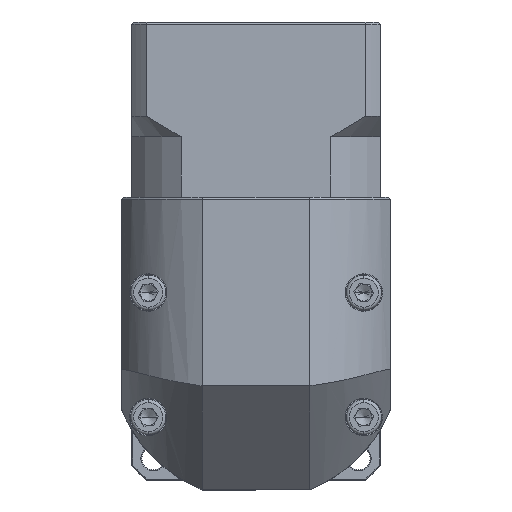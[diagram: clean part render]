
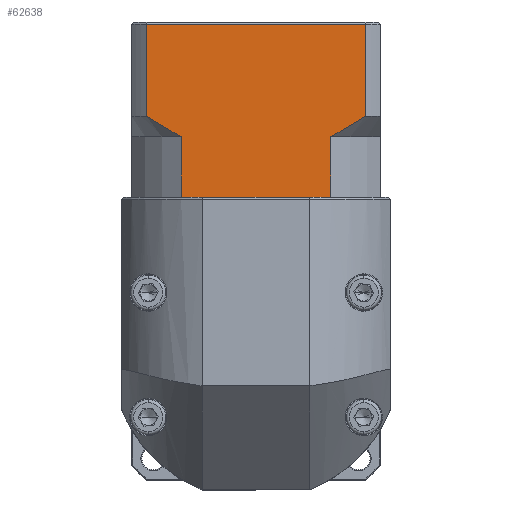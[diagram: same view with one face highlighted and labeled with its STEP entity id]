
A CAD part, top view. The second image highlights one B-rep face of the part: STEP entity #62638.
In plain terms, the highlighted planar face has unit normal (0, 0, 1).
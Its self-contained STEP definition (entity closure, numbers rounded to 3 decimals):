
#821 = CARTESIAN_POINT ( 'NONE',  ( -54.259, 61.764, 82.485 ) ) ;
#927 = VERTEX_POINT ( 'NONE', #57490 ) ;
#1177 = ORIENTED_EDGE ( 'NONE', *, *, #4132, .F. ) ;
#3525 = ORIENTED_EDGE ( 'NONE', *, *, #92589, .F. ) ;
#4132 = EDGE_CURVE ( 'NONE', #5454, #927, #17528, .T. ) ;
#5454 = VERTEX_POINT ( 'NONE', #821 ) ;
#5533 = DIRECTION ( 'NONE',  ( 1., 0., 0. ) ) ;
#7041 = CARTESIAN_POINT ( 'NONE',  ( -98.745, 88.964, 82.485 ) ) ;
#7900 = CARTESIAN_POINT ( 'NONE',  ( -52.803, 62.514, 82.485 ) ) ;
#8871 = EDGE_CURVE ( 'NONE', #88916, #23934, #57867, .T. ) ;
#9154 = CARTESIAN_POINT ( 'NONE',  ( -93.198, 63.315, 82.485 ) ) ;
#10708 = EDGE_CURVE ( 'NONE', #97048, #26006, #59822, .T. ) ;
#10822 = DIRECTION ( 'NONE',  ( 0., 1., 0. ) ) ;
#11194 = VECTOR ( 'NONE', #5533, 1000. ) ;
#13027 = CARTESIAN_POINT ( 'NONE',  ( -102.287, 47.264, 82.485 ) ) ;
#13907 = LINE ( 'NONE', #45895, #100754 ) ;
#16041 = PLANE ( 'NONE',  #72888 ) ;
#17528 = LINE ( 'NONE', #50032, #46924 ) ;
#19243 = ORIENTED_EDGE ( 'NONE', *, *, #89592, .T. ) ;
#22851 = CARTESIAN_POINT ( 'NONE',  ( -45.83, 66.764, 82.485 ) ) ;
#22998 = CARTESIAN_POINT ( 'NONE',  ( -55.25, 47.264, 82.485 ) ) ;
#23934 = VERTEX_POINT ( 'NONE', #86475 ) ;
#24564 = CARTESIAN_POINT ( 'NONE',  ( -45.83, 66.764, 82.485 ) ) ;
#25082 = CARTESIAN_POINT ( 'NONE',  ( -98.745, 61.764, 82.485 ) ) ;
#26006 = VERTEX_POINT ( 'NONE', #22998 ) ;
#27221 = EDGE_CURVE ( 'NONE', #88916, #97048, #48676, .T. ) ;
#29442 = EDGE_CURVE ( 'NONE', #62639, #23934, #58078, .T. ) ;
#31757 = CARTESIAN_POINT ( 'NONE',  ( -51.377, 63.314, 82.485 ) ) ;
#32632 = CARTESIAN_POINT ( 'NONE',  ( -96.006, 64.991, 82.485 ) ) ;
#32872 = CARTESIAN_POINT ( 'NONE',  ( -102.287, 47.264, 82.485 ) ) ;
#33351 = CARTESIAN_POINT ( 'NONE',  ( -91.767, 62.512, 82.485 ) ) ;
#37286 = ORIENTED_EDGE ( 'NONE', *, *, #8871, .F. ) ;
#37839 = DIRECTION ( 'NONE',  ( 0., -1., 0. ) ) ;
#39187 = CARTESIAN_POINT ( 'NONE',  ( -90.315, 61.764, 82.485 ) ) ;
#39235 = CARTESIAN_POINT ( 'NONE',  ( -45.83, 61.764, 82.485 ) ) ;
#40051 = VERTEX_POINT ( 'NONE', #7041 ) ;
#40501 = VECTOR ( 'NONE', #10822, 1000. ) ;
#45895 = CARTESIAN_POINT ( 'NONE',  ( -102.287, 88.964, 82.485 ) ) ;
#46118 = VECTOR ( 'NONE', #105735, 1000. ) ;
#46404 = ORIENTED_EDGE ( 'NONE', *, *, #29442, .T. ) ;
#46924 = VECTOR ( 'NONE', #74637, 1000. ) ;
#48676 = LINE ( 'NONE', #32872, #46118 ) ;
#48801 = ORIENTED_EDGE ( 'NONE', *, *, #89167, .T. ) ;
#49589 = VECTOR ( 'NONE', #58669, 1000. ) ;
#50032 = CARTESIAN_POINT ( 'NONE',  ( -54.259, 61.764, 82.485 ) ) ;
#51345 = ORIENTED_EDGE ( 'NONE', *, *, #102201, .F. ) ;
#51426 = EDGE_CURVE ( 'NONE', #26006, #927, #71141, .T. ) ;
#55673 = CARTESIAN_POINT ( 'NONE',  ( -102.287, 89.464, 82.485 ) ) ;
#56637 = CARTESIAN_POINT ( 'NONE',  ( -45.83, 88.964, 82.485 ) ) ;
#57053 = CARTESIAN_POINT ( 'NONE',  ( -47.192, 65.862, 82.485 ) ) ;
#57490 = CARTESIAN_POINT ( 'NONE',  ( -54.259, 47.264, 82.485 ) ) ;
#57867 = LINE ( 'NONE', #39187, #74435 ) ;
#58078 = B_SPLINE_CURVE_WITH_KNOTS ( 'NONE', 3,
 ( #82207, #90800, #32632, #9154, #33351, #98732 ),
 .UNSPECIFIED., .F., .F.,
 ( 4, 2, 4 ),
 ( 0.052, 0.057, 0.062 ),
 .UNSPECIFIED. ) ;
#58669 = DIRECTION ( 'NONE',  ( 1., 0., 0. ) ) ;
#59822 = LINE ( 'NONE', #99800, #49589 ) ;
#62182 = LINE ( 'NONE', #25082, #40501 ) ;
#62324 = DIRECTION ( 'NONE',  ( -1., 0., 0. ) ) ;
#62638 = ADVANCED_FACE ( 'NONE', ( #74032 ), #16041, .F. ) ;
#62639 = VERTEX_POINT ( 'NONE', #63862 ) ;
#63076 = VECTOR ( 'NONE', #37839, 1000. ) ;
#63862 = CARTESIAN_POINT ( 'NONE',  ( -98.745, 66.764, 82.485 ) ) ;
#65519 = EDGE_LOOP ( 'NONE', ( #3525, #19243, #51345, #46404, #37286, #73470, #67523, #104831, #1177, #48801 ) ) ;
#67523 = ORIENTED_EDGE ( 'NONE', *, *, #10708, .T. ) ;
#68726 = B_SPLINE_CURVE_WITH_KNOTS ( 'NONE', 3,
 ( #106027, #7900, #31757, #89901, #57053, #24564 ),
 .UNSPECIFIED., .F., .F.,
 ( 4, 2, 4 ),
 ( 0.1, 0.104, 0.109 ),
 .UNSPECIFIED. ) ;
#71141 = LINE ( 'NONE', #13027, #11194 ) ;
#71241 = DIRECTION ( 'NONE',  ( 0., 1., 0. ) ) ;
#72888 = AXIS2_PLACEMENT_3D ( 'NONE', #55673, #88849, #97112 ) ;
#73470 = ORIENTED_EDGE ( 'NONE', *, *, #27221, .T. ) ;
#74032 = FACE_OUTER_BOUND ( 'NONE', #65519, .T. ) ;
#74435 = VECTOR ( 'NONE', #71241, 1000. ) ;
#74637 = DIRECTION ( 'NONE',  ( 0., -1., 0. ) ) ;
#82207 = CARTESIAN_POINT ( 'NONE',  ( -98.745, 66.764, 82.485 ) ) ;
#84759 = LINE ( 'NONE', #39235, #63076 ) ;
#85060 = VERTEX_POINT ( 'NONE', #56637 ) ;
#86475 = CARTESIAN_POINT ( 'NONE',  ( -90.315, 61.764, 82.485 ) ) ;
#88849 = DIRECTION ( 'NONE',  ( 0., 0., -1. ) ) ;
#88916 = VERTEX_POINT ( 'NONE', #101441 ) ;
#89105 = VERTEX_POINT ( 'NONE', #22851 ) ;
#89167 = EDGE_CURVE ( 'NONE', #5454, #89105, #68726, .T. ) ;
#89592 = EDGE_CURVE ( 'NONE', #85060, #40051, #13907, .T. ) ;
#89901 = CARTESIAN_POINT ( 'NONE',  ( -48.572, 64.988, 82.485 ) ) ;
#90800 = CARTESIAN_POINT ( 'NONE',  ( -97.385, 65.864, 82.485 ) ) ;
#92589 = EDGE_CURVE ( 'NONE', #85060, #89105, #84759, .T. ) ;
#97048 = VERTEX_POINT ( 'NONE', #97084 ) ;
#97084 = CARTESIAN_POINT ( 'NONE',  ( -89.324, 47.264, 82.485 ) ) ;
#97112 = DIRECTION ( 'NONE',  ( 0., 1., 0. ) ) ;
#98732 = CARTESIAN_POINT ( 'NONE',  ( -90.315, 61.764, 82.485 ) ) ;
#99800 = CARTESIAN_POINT ( 'NONE',  ( -102.287, 47.264, 82.485 ) ) ;
#100754 = VECTOR ( 'NONE', #62324, 1000. ) ;
#101441 = CARTESIAN_POINT ( 'NONE',  ( -90.315, 47.264, 82.485 ) ) ;
#102201 = EDGE_CURVE ( 'NONE', #62639, #40051, #62182, .T. ) ;
#104831 = ORIENTED_EDGE ( 'NONE', *, *, #51426, .T. ) ;
#105735 = DIRECTION ( 'NONE',  ( 1., 0., 0. ) ) ;
#106027 = CARTESIAN_POINT ( 'NONE',  ( -54.259, 61.764, 82.485 ) ) ;
